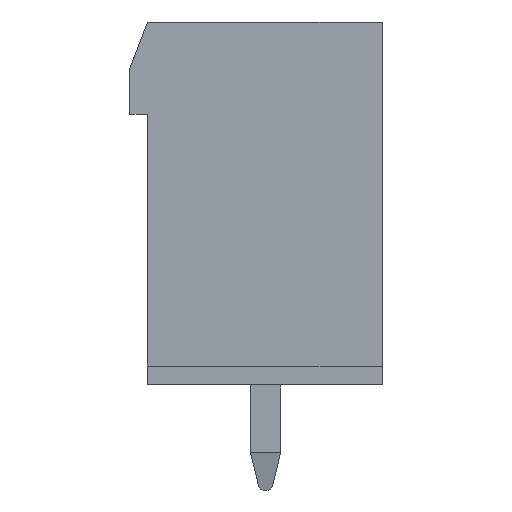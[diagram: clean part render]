
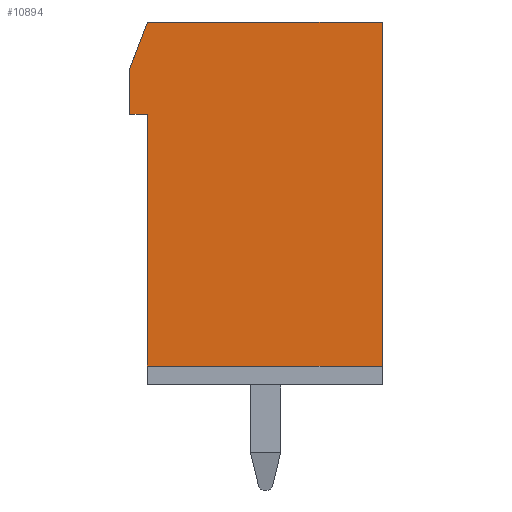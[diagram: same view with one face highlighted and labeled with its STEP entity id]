
A CAD part, left-side view. The second image highlights one B-rep face of the part: STEP entity #10894.
In plain terms, the highlighted planar face has unit normal (-1, 0, 0).
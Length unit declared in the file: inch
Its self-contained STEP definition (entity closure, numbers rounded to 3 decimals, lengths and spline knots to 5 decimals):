
#1=DIRECTION('',(0.,1.,0.));
#2=VECTOR('',#1,0.306);
#3=CARTESIAN_POINT('',(-1.755,0.,0.02362));
#4=LINE('',#3,#2);
#5=DIRECTION('',(0.,0.,1.));
#6=VECTOR('',#5,0.32838);
#7=CARTESIAN_POINT('',(-1.755,0.306,0.02362));
#8=LINE('',#7,#6);
#9=DIRECTION('',(0.,1.,0.));
#10=VECTOR('',#9,0.023);
#11=CARTESIAN_POINT('',(-1.755,0.306,0.352));
#12=LINE('',#11,#10);
#13=DIRECTION('',(0.,0.,1.));
#14=VECTOR('',#13,0.06);
#15=CARTESIAN_POINT('',(-1.755,0.329,0.352));
#16=LINE('',#15,#14);
#17=DIRECTION('',(0.,-0.358,0.934));
#18=VECTOR('',#17,0.06426);
#19=CARTESIAN_POINT('',(-1.755,0.329,0.412));
#20=LINE('',#19,#18);
#21=DIRECTION('',(0.,-1.,0.));
#22=VECTOR('',#21,0.306);
#23=CARTESIAN_POINT('',(-1.755,0.306,0.472));
#24=LINE('',#23,#22);
#25=DIRECTION('',(0.,0.,-1.));
#26=VECTOR('',#25,0.44838);
#27=CARTESIAN_POINT('',(-1.755,0.,0.472));
#28=LINE('',#27,#26);
#8449=CARTESIAN_POINT('',(-1.755,0.306,0.352));
#8450=CARTESIAN_POINT('',(-1.755,0.329,0.352));
#8451=VERTEX_POINT('',#8449);
#8452=VERTEX_POINT('',#8450);
#8453=CARTESIAN_POINT('',(-1.755,0.329,0.412));
#8454=VERTEX_POINT('',#8453);
#8455=CARTESIAN_POINT('',(-1.755,0.306,0.472));
#8456=VERTEX_POINT('',#8455);
#8457=CARTESIAN_POINT('',(-1.755,0.,0.472));
#8458=VERTEX_POINT('',#8457);
#8477=CARTESIAN_POINT('',(-1.755,0.,0.02362));
#8478=CARTESIAN_POINT('',(-1.755,0.306,0.02362));
#8479=VERTEX_POINT('',#8477);
#8480=VERTEX_POINT('',#8478);
#10873=CARTESIAN_POINT('',(-1.755,0.,0.));
#10874=DIRECTION('',(1.,0.,0.));
#10875=DIRECTION('',(0.,0.,-1.));
#10876=AXIS2_PLACEMENT_3D('',#10873,#10874,#10875);
#10877=PLANE('',#10876);
#10879=ORIENTED_EDGE('',*,*,#10878,.T.);
#10881=ORIENTED_EDGE('',*,*,#10880,.T.);
#10883=ORIENTED_EDGE('',*,*,#10882,.T.);
#10885=ORIENTED_EDGE('',*,*,#10884,.T.);
#10887=ORIENTED_EDGE('',*,*,#10886,.T.);
#10889=ORIENTED_EDGE('',*,*,#10888,.T.);
#10891=ORIENTED_EDGE('',*,*,#10890,.T.);
#10892=EDGE_LOOP('',(#10879,#10881,#10883,#10885,#10887,#10889,#10891));
#10893=FACE_OUTER_BOUND('',#10892,.F.);
#10894=ADVANCED_FACE('',(#10893),#10877,.F.);
#10878=EDGE_CURVE('',#8479,#8480,#4,.T.);
#10880=EDGE_CURVE('',#8480,#8451,#8,.T.);
#10882=EDGE_CURVE('',#8451,#8452,#12,.T.);
#10884=EDGE_CURVE('',#8452,#8454,#16,.T.);
#10886=EDGE_CURVE('',#8454,#8456,#20,.T.);
#10888=EDGE_CURVE('',#8456,#8458,#24,.T.);
#10890=EDGE_CURVE('',#8458,#8479,#28,.T.);
